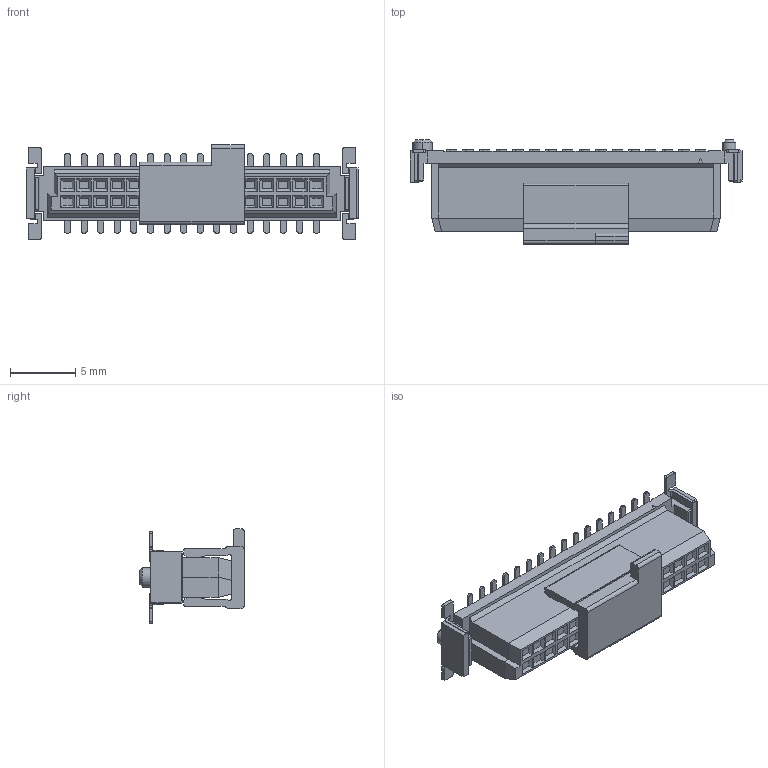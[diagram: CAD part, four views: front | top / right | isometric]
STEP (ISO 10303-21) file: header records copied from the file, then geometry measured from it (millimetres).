
FILE_DESCRIPTION (( 'STEP AP214' ), '1' );
FILE_NAME ('2321-A32FCxxDP1T-P-1.STEP', '2025-06-25T05:36:42', ( '' ), ( '' ), 'SwSTEP 2.0', 'SolidWorks 2011', '' );
FILE_SCHEMA (( 'AUTOMOTIVE_DESIGN' ));
Length unit declared in the file: millimetre
Products named in the file (3): 2321-A32FCxxDP1T_Default; 2321-FPAD2_Default_Default_Default_Default_Default; 2321-A32FCxxDP1T-P-1
Assembly tree (2 placements, depth 2):
  2321-A32FCxxDP1T-P-1
    2321-A32FCxxDP1T_Default
    2321-FPAD2_Default_Default_Default_Default_Default
Bounding box: 25.4 x 8 x 7.22 mm (x, y, z)
Volume: 504.9 mm3; surface area: 911.8 mm2
Topology: 2 solids, 2 shells, 1108 faces, 3160 edges, 2059 vertices
Faces by surface type: plane 771, cylinder 332, cone 5
Entity records: 48319 total; most frequent: CARTESIAN_POINT 6332, ORIENTED_EDGE 6320, DIRECTION 6159, EDGE_CURVE 3160, LINE 2387, VECTOR 2387, VERTEX_POINT 2059, AXIS2_PLACEMENT_3D 1886
